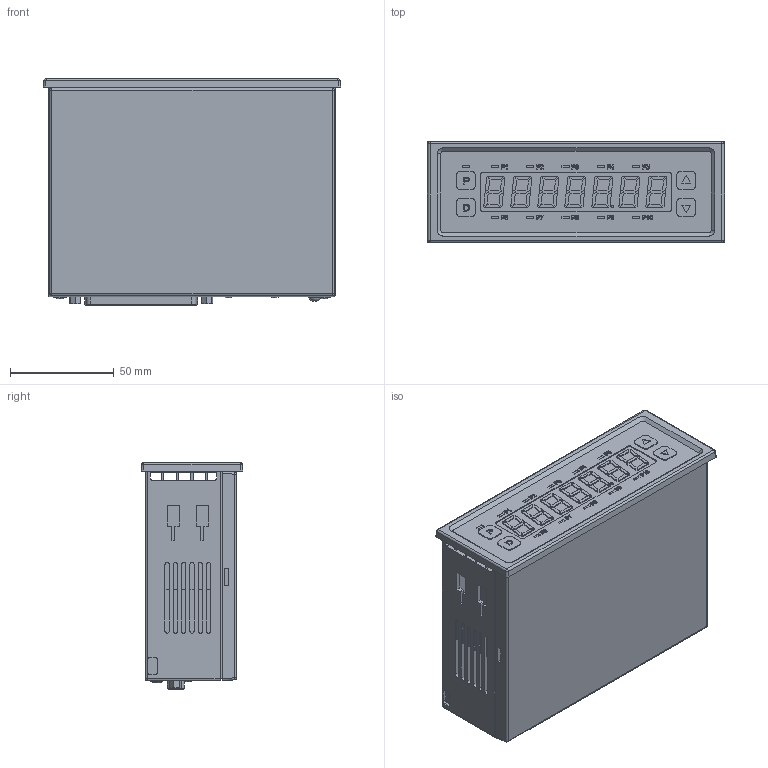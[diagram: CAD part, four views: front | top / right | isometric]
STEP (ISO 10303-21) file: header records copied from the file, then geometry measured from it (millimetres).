
FILE_DESCRIPTION (( 'STEP AP214' ), '1' );
FILE_NAME ('NAS_Assem1.STEP', '2024-08-19T03:53:20', ( '' ), ( '' ), 'SwSTEP 2.0', 'SolidWorks 2023', '' );
FILE_SCHEMA (( 'AUTOMOTIVE_DESIGN' ));
Length unit declared in the file: millimetre
Products named in the file (11): バインド頭Tap M3 X10 MM; NAS_Assem1; ワッシャ M3; SCREW M3 X6 MM; 8P_Pin; D-Subコネクター取付スペーサー; M3スプリングワッシャ_0.7mm厚; D SUB 37P female - FL37S7-K121 (FCT)_裏消し; オムロンXW4A-03C1-H1; バインド頭 M2.5 X6 MM; NAS_Part1
Assembly tree (13 placements, depth 2):
  NAS_Assem1
    NAS_Part1
    8P_Pin
    オムロンXW4A-03C1-H1
    ワッシャ M3
    SCREW M3 X6 MM
    バインド頭 M2.5 X6 MM  x2
    バインド頭Tap M3 X10 MM  x2
    M3スプリングワッシャ_0.7mm厚
    D-Subコネクター取付スペーサー  x2
    D SUB 37P female - FL37S7-K121 (FCT)_裏消し
Bounding box: 143 x 49 x 109 mm (x, y, z)
Volume: 467917 mm3; surface area: 126061.8 mm2
Topology: 15 solids, 15 shells, 2120 faces, 5454 edges, 3580 vertices
Faces by surface type: plane 1257, bspline 381, cylinder 303, cone 125, torus 36, sphere 18
Entity records: 64885 total; most frequent: CARTESIAN_POINT 16331, ORIENTED_EDGE 10540, DIRECTION 8675, EDGE_CURVE 5270, LINE 3703, VECTOR 3703, VERTEX_POINT 3456, AXIS2_PLACEMENT_3D 2486
